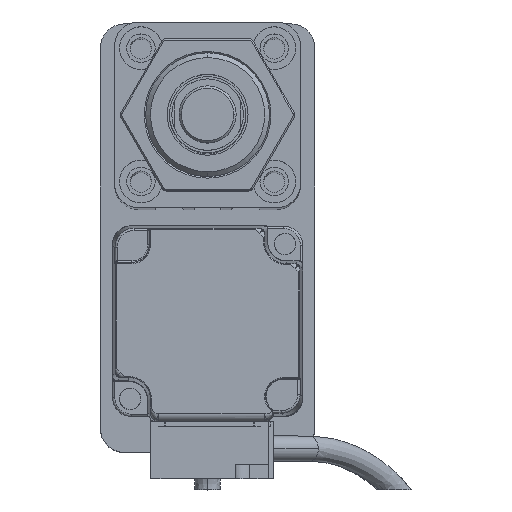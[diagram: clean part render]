
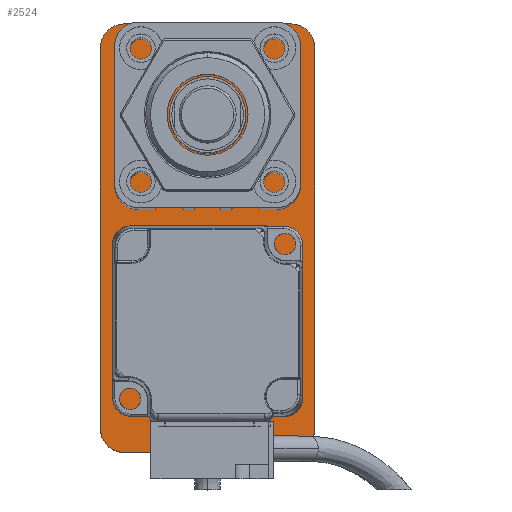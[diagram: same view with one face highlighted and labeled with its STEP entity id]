
A CAD part, top view. The second image highlights one B-rep face of the part: STEP entity #2524.
In plain terms, the highlighted planar face has unit normal (0, 0, 1).
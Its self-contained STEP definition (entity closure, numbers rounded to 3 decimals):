
#417 = CARTESIAN_POINT ( 'NONE',  ( 22.5, -45., 10. ) ) ;
#559 = AXIS2_PLACEMENT_3D ( 'NONE', #12012, #14130, #22776 ) ;
#1163 = CIRCLE ( 'NONE', #16329, 5. ) ;
#1264 = CIRCLE ( 'NONE', #23424, 5. ) ;
#2153 = ORIENTED_EDGE ( 'NONE', *, *, #8186, .T. ) ;
#2161 = DIRECTION ( 'NONE',  ( 1., 0., 0. ) ) ;
#2524 = ADVANCED_FACE ( 'NONE', ( #21116 ), #16875, .T. ) ;
#3131 = ORIENTED_EDGE ( 'NONE', *, *, #20710, .T. ) ;
#3923 = CIRCLE ( 'NONE', #20270, 5. ) ;
#4130 = CIRCLE ( 'NONE', #559, 5. ) ;
#4147 = EDGE_CURVE ( 'NONE', #12138, #4577, #6108, .T. ) ;
#4577 = VERTEX_POINT ( 'NONE', #16065 ) ;
#4610 = ORIENTED_EDGE ( 'NONE', *, *, #15869, .T. ) ;
#5660 = DIRECTION ( 'NONE',  ( 1., 0., 0. ) ) ;
#5855 = CARTESIAN_POINT ( 'NONE',  ( -17.5, -45., 10. ) ) ;
#5875 = VERTEX_POINT ( 'NONE', #5855 ) ;
#6108 = LINE ( 'NONE', #25261, #16816 ) ;
#6581 = CARTESIAN_POINT ( 'NONE',  ( 0., 0., 10. ) ) ;
#6770 = CARTESIAN_POINT ( 'NONE',  ( 22.5, -40., 10. ) ) ;
#6924 = DIRECTION ( 'NONE',  ( 1., 0., 0. ) ) ;
#7275 = VERTEX_POINT ( 'NONE', #27025 ) ;
#7516 = ORIENTED_EDGE ( 'NONE', *, *, #10702, .T. ) ;
#7544 = CARTESIAN_POINT ( 'NONE',  ( 17.5, 40., 10. ) ) ;
#8186 = EDGE_CURVE ( 'NONE', #8300, #5875, #3923, .T. ) ;
#8246 = LINE ( 'NONE', #11273, #13247 ) ;
#8300 = VERTEX_POINT ( 'NONE', #12556 ) ;
#8304 = ORIENTED_EDGE ( 'NONE', *, *, #9367, .T. ) ;
#9277 = DIRECTION ( 'NONE',  ( -1., 0., 0. ) ) ;
#9367 = EDGE_CURVE ( 'NONE', #7275, #22045, #1163, .T. ) ;
#9561 = DIRECTION ( 'NONE',  ( 0., 0., 1. ) ) ;
#9707 = CARTESIAN_POINT ( 'NONE',  ( 17.5, 45., 10. ) ) ;
#10471 = EDGE_LOOP ( 'NONE', ( #21114, #4610, #11404, #8304, #7516, #2153, #20498, #3131 ) ) ;
#10702 = EDGE_CURVE ( 'NONE', #22045, #8300, #8246, .T. ) ;
#11037 = EDGE_CURVE ( 'NONE', #5875, #14302, #12904, .T. ) ;
#11273 = CARTESIAN_POINT ( 'NONE',  ( -22.5, -45., 10. ) ) ;
#11404 = ORIENTED_EDGE ( 'NONE', *, *, #27519, .T. ) ;
#12012 = CARTESIAN_POINT ( 'NONE',  ( 17.5, -40., 10. ) ) ;
#12138 = VERTEX_POINT ( 'NONE', #6770 ) ;
#12512 = LINE ( 'NONE', #13199, #19195 ) ;
#12556 = CARTESIAN_POINT ( 'NONE',  ( -22.5, -40., 10. ) ) ;
#12557 = VECTOR ( 'NONE', #6924, 1000. ) ;
#12904 = LINE ( 'NONE', #417, #12557 ) ;
#13199 = CARTESIAN_POINT ( 'NONE',  ( 22.5, 45., 10. ) ) ;
#13247 = VECTOR ( 'NONE', #26233, 1000. ) ;
#13770 = DIRECTION ( 'NONE',  ( 1., 0., 0. ) ) ;
#14069 = DIRECTION ( 'NONE',  ( 0., 0., 1. ) ) ;
#14130 = DIRECTION ( 'NONE',  ( 0., 0., 1. ) ) ;
#14302 = VERTEX_POINT ( 'NONE', #18145 ) ;
#15869 = EDGE_CURVE ( 'NONE', #4577, #21271, #1264, .T. ) ;
#16065 = CARTESIAN_POINT ( 'NONE',  ( 22.5, 40., 10. ) ) ;
#16329 = AXIS2_PLACEMENT_3D ( 'NONE', #18554, #26820, #5660 ) ;
#16816 = VECTOR ( 'NONE', #25462, 1000. ) ;
#16875 = PLANE ( 'NONE',  #24657 ) ;
#18145 = CARTESIAN_POINT ( 'NONE',  ( 17.5, -45., 10. ) ) ;
#18554 = CARTESIAN_POINT ( 'NONE',  ( -17.5, 40., 10. ) ) ;
#19195 = VECTOR ( 'NONE', #9277, 1000. ) ;
#19210 = DIRECTION ( 'NONE',  ( 0., 0., 1. ) ) ;
#20258 = CARTESIAN_POINT ( 'NONE',  ( -22.5, 40., 10. ) ) ;
#20270 = AXIS2_PLACEMENT_3D ( 'NONE', #22398, #9561, #13770 ) ;
#20498 = ORIENTED_EDGE ( 'NONE', *, *, #11037, .T. ) ;
#20710 = EDGE_CURVE ( 'NONE', #14302, #12138, #4130, .T. ) ;
#21114 = ORIENTED_EDGE ( 'NONE', *, *, #4147, .T. ) ;
#21116 = FACE_OUTER_BOUND ( 'NONE', #10471, .T. ) ;
#21271 = VERTEX_POINT ( 'NONE', #9707 ) ;
#22045 = VERTEX_POINT ( 'NONE', #20258 ) ;
#22398 = CARTESIAN_POINT ( 'NONE',  ( -17.5, -40., 10. ) ) ;
#22776 = DIRECTION ( 'NONE',  ( 1., 0., 0. ) ) ;
#23424 = AXIS2_PLACEMENT_3D ( 'NONE', #7544, #14069, #24659 ) ;
#24657 = AXIS2_PLACEMENT_3D ( 'NONE', #6581, #19210, #2161 ) ;
#24659 = DIRECTION ( 'NONE',  ( 1., 0., 0. ) ) ;
#25261 = CARTESIAN_POINT ( 'NONE',  ( 22.5, -45., 10. ) ) ;
#25462 = DIRECTION ( 'NONE',  ( 0., 1., 0. ) ) ;
#26233 = DIRECTION ( 'NONE',  ( 0., -1., 0. ) ) ;
#26820 = DIRECTION ( 'NONE',  ( 0., 0., 1. ) ) ;
#27025 = CARTESIAN_POINT ( 'NONE',  ( -17.5, 45., 10. ) ) ;
#27519 = EDGE_CURVE ( 'NONE', #21271, #7275, #12512, .T. ) ;
